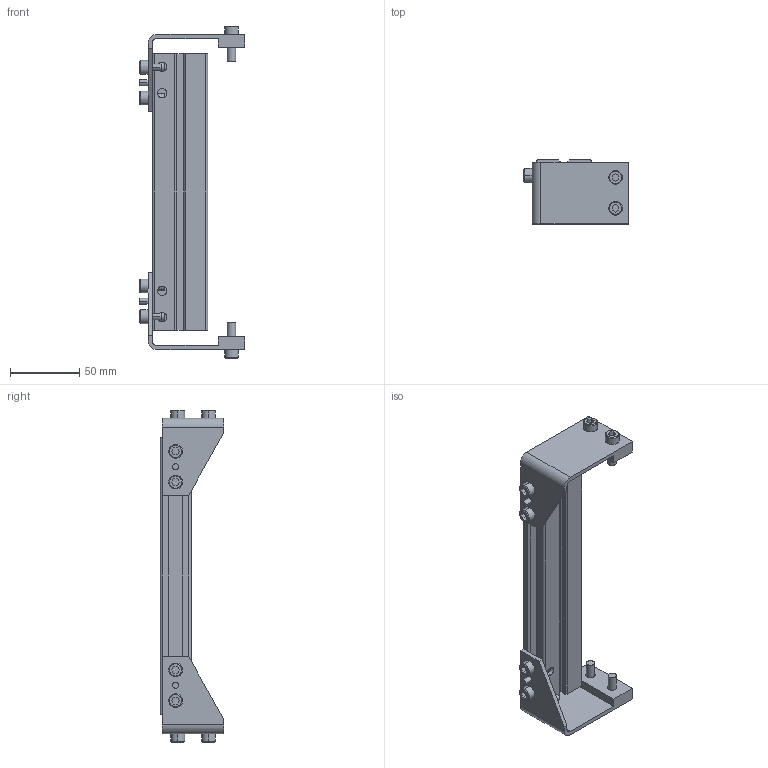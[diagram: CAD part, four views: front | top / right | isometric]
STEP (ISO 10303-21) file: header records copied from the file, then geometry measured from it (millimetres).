
FILE_DESCRIPTION((''),'2;1');
FILE_NAME('3076WWM_2_ASM','2023-03-15T',('jenni.wallner'),(''),'PRO/ENGINEER BY PARAMETRIC TECHNOLOGY CORPORATION, 2012420','PRO/ENGINEER BY PARAMETRIC TECHNOLOGY CORPORATION, 2012420','');
FILE_SCHEMA(('CONFIG_CONTROL_DESIGN'));
Length unit declared in the file: inch
Products named in the file (4): 677721_1; BRACKET_L; BRACKET_R; 3076WWM_2_ASM
Assembly tree (3 placements, depth 2):
  3076WWM_2_ASM
    677721_1
    BRACKET_L
    BRACKET_R
Bounding box: 76.2 x 46.13 x 240.02 mm (x, y, z)
Volume: 126188.2 mm3; surface area: 77511.8 mm2
Topology: 3 solids, 3 shells, 296 faces, 730 edges, 476 vertices
Faces by surface type: plane 188, cylinder 76, cone 32
Entity records: 8834 total; most frequent: DIRECTION 1520, CARTESIAN_POINT 1509, ORIENTED_EDGE 1460, EDGE_CURVE 730, VECTOR 546, LINE 546, AXIS2_PLACEMENT_3D 487, VERTEX_POINT 476
